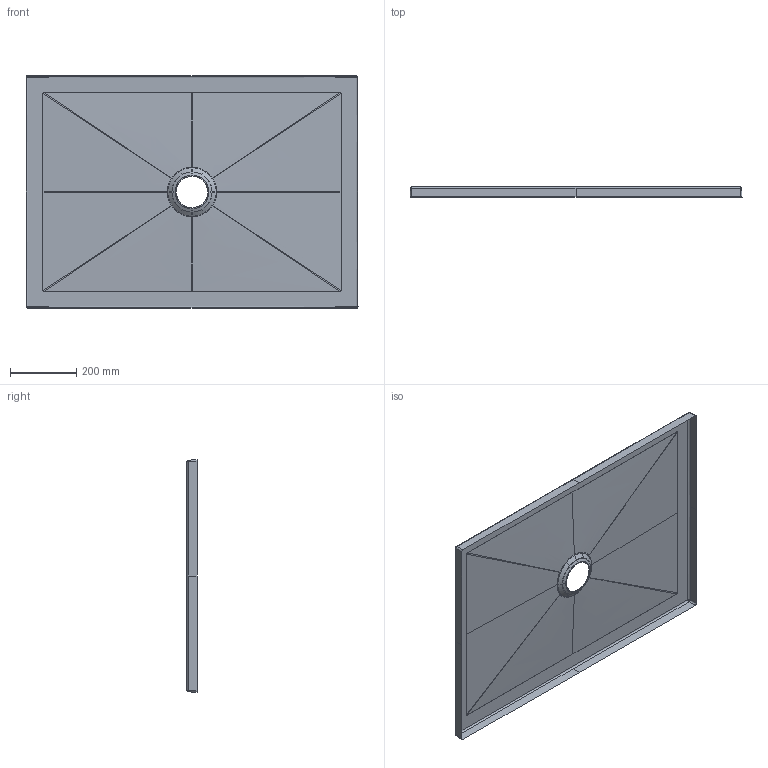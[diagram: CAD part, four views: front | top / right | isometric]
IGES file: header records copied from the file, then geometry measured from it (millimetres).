
Start section: START RECORD GO HERE.
Global section: file name: 1041_PD 100 X 70 H3 LISCIO.igs; native system: DASSAULT SYSTEMES CATIA V5 R19 - www.3ds.com; preprocessor: CATIA Version 5 Release 19 SP 5 ; author: gioge; organization: LAPTOP-G94B6G74; date: 20200630.152849; units: millimetre
Bounding box: 1000 x 30.5 x 700 mm (x, y, z)
Surface area: 790473 mm2 (no closed solid volume)
Topology: 0 solids, 0 shells, 82 faces, 372 edges, 368 vertices
Faces by surface type: bspline 56, revolution 24, plane 2
